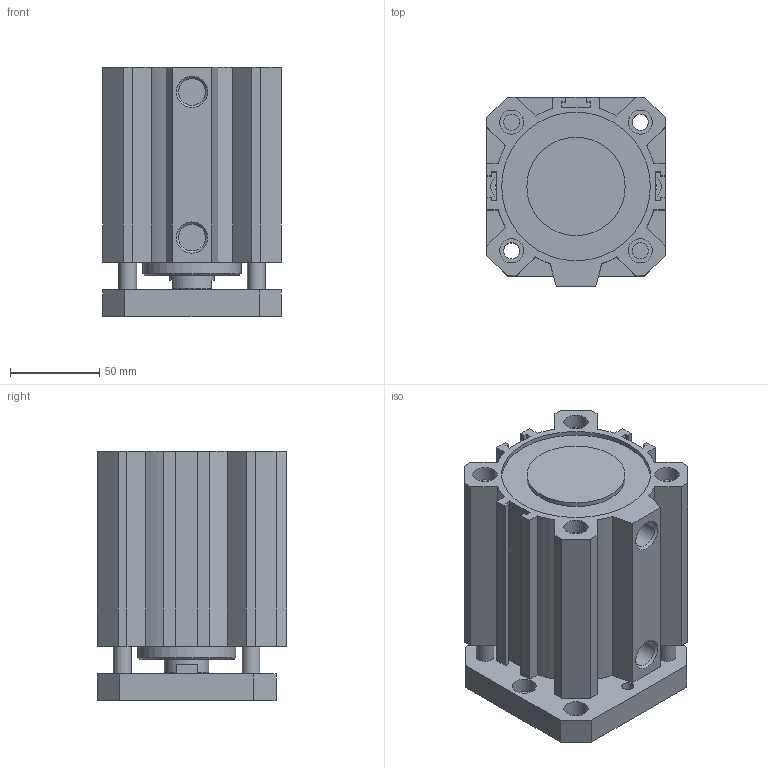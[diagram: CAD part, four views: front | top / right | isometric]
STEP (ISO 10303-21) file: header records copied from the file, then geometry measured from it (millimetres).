
FILE_DESCRIPTION(/* description */ (''),/* implementation_level */ '2;1');
FILE_NAME(/* name */ 'I:\Area Tecnica\Disegni\VARIE-3D\Componenti\1500\Ø80\15##_80_####_#\1501_80_0065_AR.stp',/* time_stamp */ '2016-08-24T14:13:07+02:00',/* author */ ('Maniean1'),/* organization */ ('Pneumax S.p.A.'),/* preprocessor_version */ 'ST-DEVELOPER v15.2',/* originating_system */ 'Autodesk Inventor 2014',/* authorisation */ '');
FILE_SCHEMA (('AUTOMOTIVE_DESIGN { 1 0 10303 214 3 1 1 }'));
Length unit declared in the file: millimetre
Products named in the file (3): C_1501_80_0065_AR; S_1501_80_0065_AR; 1501_80_0065_AR
Bounding box: 100 x 106 x 139.5 mm (x, y, z)
Volume: 756491.4 mm3; surface area: 178382.1 mm2
Topology: 2 solids, 2 shells, 139 faces, 341 edges, 228 vertices
Faces by surface type: plane 94, cylinder 40, cone 5
Full cylindrical faces by diameter (mm): 6.647 x2, 8.5 x2, 9 x4, 10 x4, 13.5 x10, 14.95 x2, 25 x2, 55 x2, 80 x2, 83.2 x2
Entity records: 4083 total; most frequent: CARTESIAN_POINT 674, DIRECTION 672, ORIENTED_EDGE 600, EDGE_CURVE 300, AXIS2_PLACEMENT_3D 232, VERTEX_POINT 222, EDGE_LOOP 216, LINE 208
